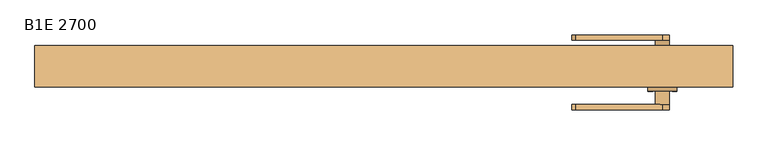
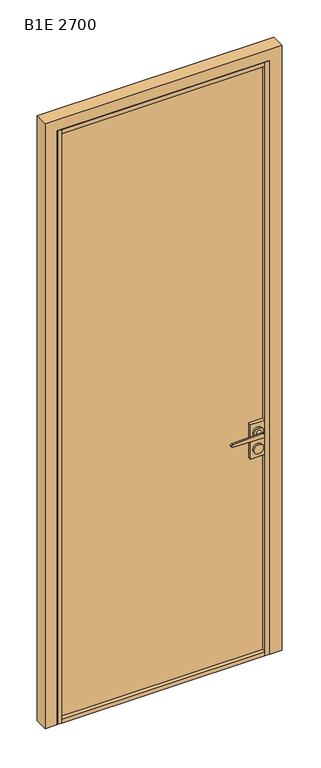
"""IFC4 building model written with IfcOpenShell, lengths in millimetres: door geometry, Mobiliário_Mobiliário de Escritório_Porta de Giro Emoldurada - BE_Marelli : B1E 2700."""

from ifc_helpers import new_model, si_unit, point, frame, frame_2d, origin, place, context, project, spatial, polyline, circle_curve, trimmed, segment, composite_curve, outline, extrude, faceted_brep, source, transform, mapped, element, save
from ifc_brep_helpers import plane_surface, cylinder_surface, advanced_brep


def b1e_2700_cc225067(model_context):
    return source(origin(), model_context, "Body", "SolidModel", [
        extrude(outline(polyline([(-447.5, -16.5), (-447.5, 25.5), (-429.5, 25.5), (-429.5, -16.5), (-447.5, -16.5)])), frame((0.0, 0.0, 0.2), z_axis=(0.0, 0.0, 1.0), x_axis=(1.0, 0.0, 0.0)), (0.0, 0.0, 1.0), 2648.3),
        extrude(outline(polyline([(447.5, -16.5), (429.5, -16.5), (429.5, 25.5), (447.5, 25.5), (447.5, -16.5)])), frame((0.0, 0.0, 0.2), z_axis=(0.0, 0.0, 1.0), x_axis=(1.0, 0.0, 0.0)), (0.0, 0.0, 1.0), 2648.3),
        extrude(outline(polyline([(2630.5, -429.5), (18.2, -429.5), (18.2, 429.5), (896.8, 429.5), (896.8, 369.5), (1050.0, 369.5), (1050.0, 429.5), (2630.5, 429.5), (2630.5, -429.5)])), frame((0.0, 0.5, 0.0), z_axis=(0.0, 1.0, 0.0), x_axis=(0.0, 0.0, 1.0)), (0.0, 0.0, 1.0), 8.0),
        faceted_brep([(-500.0, 42.5, 0.0), (-429.0, 42.5, 0.0), (-429.0, 27.0, 0.0), (-450.0, 27.0, 0.0), (-450.0, -16.5, 0.0), (-500.0, -16.5, 0.0), (500.0, 42.5, 0.0), (500.0, -16.5, 0.0), (450.0, -16.5, 0.0), (450.0, 27.0, 0.0), (429.0, 27.0, 0.0), (429.0, 42.5, 0.0), (-500.0, -16.5, 2700.0), (-500.0, 42.5, 2700.0), (-450.0, -16.5, 2650.0), (450.0, -16.5, 2650.0), (500.0, -16.5, 2700.0), (-450.0, 27.0, 2650.0), (-429.0, 27.0, 2629.0), (429.0, 27.0, 2629.0), (450.0, 27.0, 2650.0), (-429.0, 42.5, 2629.0), (500.0, 42.5, 2700.0), (429.0, 42.5, 2629.0)], [[[0, 1, 2, 3, 4, 5]], [[6, 7, 8, 9, 10, 11]], [[0, 5, 12, 13]], [[12, 5, 4, 14, 15, 8, 7, 16]], [[17, 14, 4, 3]], [[2, 18, 19, 10, 9, 20, 17, 3]], [[1, 21, 18, 2]], [[22, 6, 11, 23, 21, 1, 0, 13]], [[10, 19, 23, 11]], [[8, 15, 20, 9]], [[16, 7, 6, 22]], [[22, 13, 12, 16]], [[18, 21, 23, 19]], [[14, 17, 20, 15]]]),
        extrude(outline(polyline([(429.5, -16.5), (-429.5, -16.5), (-429.5, 25.5), (429.5, 25.5), (429.5, -16.5)])), frame((0.0, 0.0, 2630.5), z_axis=(0.0, 0.0, 1.0), x_axis=(1.0, 0.0, 0.0)), (0.0, 0.0, 1.0), 18.0),
        extrude(outline(polyline([(369.5, 23.55), (429.5, 23.55), (429.5, -14.55), (369.5, -14.55), (369.5, 23.55)])), frame((0.0, 0.0, 896.8), z_axis=(0.0, 0.0, 1.0), x_axis=(1.0, 0.0, 0.0)), (0.0, 0.0, 1.0), 153.2),
        extrude(outline(polyline([(429.5, -16.5), (-429.5, -16.5), (-429.5, 25.5), (429.5, 25.5), (429.5, -16.5)])), frame((0.0, 0.0, 0.2), z_axis=(0.0, 0.0, 1.0), x_axis=(1.0, 0.0, 0.0)), (0.0, 0.0, 1.0), 18.0),
        extrude(outline(composite_curve([segment(trimmed(circle_curve(frame_2d((936.55, 399.5)), 20.75), [point((936.55, 378.75))], [point((936.55, 420.25))], False, "CARTESIAN"), True, "CONTINUOUS"), segment(trimmed(circle_curve(frame_2d((936.55, 399.5)), 20.75), [point((936.55, 420.25))], [point((936.55, 378.75))], False, "CARTESIAN"), True, "CONTINUOUS")], self_intersect=False)), frame((0.0, -22.55, 0.0), z_axis=(0.0, 1.0, 0.0), x_axis=(0.0, 0.0, 1.0)), (0.0, 0.0, 1.0), 8.0),
        extrude(outline(composite_curve([segment(trimmed(circle_curve(frame_2d((936.55, 399.5)), 20.75), [point((936.55, 378.75))], [point((936.55, 420.25))], False, "CARTESIAN"), True, "CONTINUOUS"), segment(trimmed(circle_curve(frame_2d((936.55, 399.5)), 20.75), [point((936.55, 420.25))], [point((936.55, 378.75))], False, "CARTESIAN"), True, "CONTINUOUS")], self_intersect=False)), frame((0.0, 23.55, 0.0), z_axis=(0.0, 1.0, 0.0), x_axis=(0.0, 0.0, 1.0)), (0.0, 0.0, 1.0), 8.0),
        extrude(outline(composite_curve([segment(trimmed(circle_curve(frame_2d((1010.25, 399.5)), 20.75), [point((1010.25, 378.75))], [point((1010.25, 420.25))], False, "CARTESIAN"), True, "CONTINUOUS"), segment(trimmed(circle_curve(frame_2d((1010.25, 399.5)), 20.75), [point((1010.25, 420.25))], [point((1010.25, 378.75))], False, "CARTESIAN"), True, "CONTINUOUS")], self_intersect=False)), frame((0.0, 23.55, 0.0), z_axis=(0.0, 1.0, 0.0), x_axis=(0.0, 0.0, 1.0)), (0.0, 0.0, 1.0), 8.0),
        extrude(outline(composite_curve([segment(trimmed(circle_curve(frame_2d((1010.25, 399.5)), 20.75), [point((1010.25, 378.75))], [point((1010.25, 420.25))], False, "CARTESIAN"), True, "CONTINUOUS"), segment(trimmed(circle_curve(frame_2d((1010.25, 399.5)), 20.75), [point((1010.25, 420.25))], [point((1010.25, 378.75))], False, "CARTESIAN"), True, "CONTINUOUS")], self_intersect=False)), frame((0.0, -22.55, 0.0), z_axis=(0.0, 1.0, 0.0), x_axis=(0.0, 0.0, 1.0)), (0.0, 0.0, 1.0), 8.0),
        advanced_brep(
        [(389.5, -22.55, 1010.25), (409.5, -22.55, 1010.25), (389.5, -41.55, 1010.25), (399.0996794, -41.55, 1020.241984), (409.5, -41.55, 1010.25), (399.0996794, -41.55, 1000.258016), (274.5, -41.55, 1005.25), (274.5, -41.55, 1015.25), (399.0996794, -49.2, 1000.258016), (399.0996794, -49.2, 1020.241984), (274.5, -49.2, 1015.25), (274.5, -49.2, 1005.25)],
        [
            (0, 1, circle_curve(frame((399.5, -22.55, 1010.25), z_axis=(0.0, 1.0, 0.0), x_axis=(1.0, 0.0, 0.0)), 10.0)),
            (1, 0, circle_curve(frame((399.5, -22.55, 1010.25), z_axis=(0.0, 1.0, 0.0), x_axis=(1.0, 0.0, 0.0)), 10.0)),
            (0, 2),
            (2, 3, circle_curve(frame((399.5, -41.55, 1010.25), z_axis=(0.0, 1.0, 0.0), x_axis=(1.0, 0.0, 0.0)), 10.0)),
            (3, 4, circle_curve(frame((399.5, -41.55, 1010.25), z_axis=(0.0, 1.0, 0.0), x_axis=(1.0, 0.0, 0.0)), 10.0)),
            (4, 1),
            (4, 5, circle_curve(frame((399.5, -41.55, 1010.25), z_axis=(0.0, 1.0, 0.0), x_axis=(1.0, 0.0, 0.0)), 10.0)),
            (5, 2, circle_curve(frame((399.5, -41.55, 1010.25), z_axis=(0.0, 1.0, 0.0), x_axis=(1.0, 0.0, 0.0)), 10.0)),
            (5, 6),
            (6, 7, circle_curve(frame((274.5, -41.55, 1010.25), z_axis=(0.0, 1.0, 0.0), x_axis=(1.0, 0.0, 0.0)), 5.0)),
            (7, 3),
            (8, 9, circle_curve(frame((399.5, -49.2, 1010.25), z_axis=(0.0, -1.0, 0.0), x_axis=(1.0, 0.0, 0.0)), 10.0)),
            (9, 10),
            (10, 11, circle_curve(frame((274.5, -49.2, 1010.25), z_axis=(0.0, -1.0, 0.0), x_axis=(1.0, 0.0, 0.0)), 5.0)),
            (11, 8),
            (5, 8),
            (11, 6),
            (10, 7),
            (9, 3),
        ],
        [
            plane_surface(frame((409.5, -22.55, 1010.25), z_axis=(0.0, 1.0, 0.0), x_axis=(0.0, 0.0, 1.0))),
            cylinder_surface(frame((399.5, -22.55, 1010.25), z_axis=(0.0, -1.0, 0.0), x_axis=(1.0, 0.0, 0.0)), 10.0),
            plane_surface(frame((399.0996794, -41.55, 1000.258016), z_axis=(0.0, 1.0, 0.0), x_axis=(0.9991983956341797, 0.0, -0.0400320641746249))),
            plane_surface(frame((399.0996794, -49.2, 1000.258016), z_axis=(0.0, -1.0, 0.0), x_axis=(-0.9991983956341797, 0.0, 0.0400320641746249))),
            plane_surface(frame((399.0996794, -49.2, 1000.258016), z_axis=(-0.0400320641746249, 0.0, -0.9991983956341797), x_axis=(0.0, 1.0, 0.0))),
            cylinder_surface(frame((274.5, -41.55, 1010.25), z_axis=(0.0, -1.0, 0.0), x_axis=(1.0, 0.0, 0.0)), 5.0),
            plane_surface(frame((274.5, -49.2, 1015.25), z_axis=(-0.04003206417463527, 0.0, 0.9991983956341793), x_axis=(0.0, 1.0, 0.0))),
            cylinder_surface(frame((399.5, -41.55, 1010.25), z_axis=(0.0, -1.0, 0.0), x_axis=(1.0, 0.0, 0.0)), 10.0),
        ],
        [
            (0, [[1, 2]]),
            (1, [[3, 4, 5, 6, -1]]),
            (1, [[-6, 7, 8, -3, -2]]),
            (2, [[-4, -8, 9, 10, 11]]),
            (3, [[12, 13, 14, 15]]),
            (4, [[16, -15, 17, -9]]),
            (5, [[-17, -14, 18, -10]]),
            (6, [[-18, -13, 19, -11]]),
            (7, [[-16, -7, -5, -19, -12]]),
        ],
    ),
        advanced_brep(
        [(399.0996794, 50.55, 1000.258016), (389.5, 50.55, 1010.25), (399.0996794, 50.55, 1020.241984), (274.5, 50.55, 1015.25), (274.5, 50.55, 1005.25), (399.0996794, 58.2, 1000.258016), (274.5, 58.2, 1005.25), (274.5, 58.2, 1015.25), (399.0996794, 58.2, 1020.241984), (409.5, 50.55, 1010.25), (389.5, 31.55, 1010.25), (409.5, 31.55, 1010.25)],
        [
            (0, 1, circle_curve(frame((399.5, 50.55, 1010.25), z_axis=(0.0, 1.0, 0.0), x_axis=(1.0, 0.0, 0.0)), 10.0)),
            (1, 2, circle_curve(frame((399.5, 50.55, 1010.25), z_axis=(0.0, 1.0, 0.0), x_axis=(1.0, 0.0, 0.0)), 10.0)),
            (2, 3),
            (3, 4, circle_curve(frame((274.5, 50.55, 1010.25), z_axis=(0.0, -1.0, 0.0), x_axis=(1.0, 0.0, 0.0)), 5.0)),
            (4, 0),
            (5, 6),
            (6, 7, circle_curve(frame((274.5, 58.2, 1010.25), z_axis=(0.0, 1.0, 0.0), x_axis=(1.0, 0.0, 0.0)), 5.0)),
            (7, 8),
            (8, 5, circle_curve(frame((399.5, 58.2, 1010.25), z_axis=(0.0, 1.0, 0.0), x_axis=(1.0, 0.0, 0.0)), 10.0)),
            (4, 6),
            (5, 0),
            (3, 7),
            (2, 8),
            (2, 9, circle_curve(frame((399.5, 50.55, 1010.25), z_axis=(0.0, 1.0, 0.0), x_axis=(1.0, 0.0, 0.0)), 10.0)),
            (9, 0, circle_curve(frame((399.5, 50.55, 1010.25), z_axis=(0.0, 1.0, 0.0), x_axis=(1.0, 0.0, 0.0)), 10.0)),
            (10, 11, circle_curve(frame((399.5, 31.55, 1010.25), z_axis=(0.0, -1.0, 0.0), x_axis=(1.0, 0.0, 0.0)), 10.0)),
            (11, 10, circle_curve(frame((399.5, 31.55, 1010.25), z_axis=(0.0, -1.0, 0.0), x_axis=(1.0, 0.0, 0.0)), 10.0)),
            (11, 9),
            (1, 10),
        ],
        [
            plane_surface(frame((409.5, 50.55, 1010.25), z_axis=(0.0, -1.0, 0.0), x_axis=(0.0, 0.0, -1.0))),
            plane_surface(frame((409.5, 58.2, 1010.25), z_axis=(0.0, 1.0, 0.0), x_axis=(0.0, 0.0, 1.0))),
            plane_surface(frame((274.5, 58.2, 1005.25), z_axis=(-0.04003206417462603, 0.0, -0.9991983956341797), x_axis=(0.0, -1.0, 0.0))),
            cylinder_surface(frame((274.5, 50.55, 1010.25), z_axis=(0.0, 1.0, 0.0), x_axis=(1.0, 0.0, 0.0)), 5.0),
            plane_surface(frame((399.0996794, 58.2, 1020.241984), z_axis=(-0.04003206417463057, 0.0, 0.9991983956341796), x_axis=(0.0, -1.0, 0.0))),
            cylinder_surface(frame((399.5, 50.55, 1010.25), z_axis=(0.0, 1.0, 0.0), x_axis=(1.0, 0.0, 0.0)), 10.0),
            plane_surface(frame((409.5, 31.55, 1010.25), z_axis=(0.0, -1.0, 0.0), x_axis=(0.0, 0.0, -1.0))),
            cylinder_surface(frame((399.5, 31.55, 1010.25), z_axis=(0.0, 1.0, 0.0), x_axis=(1.0, 0.0, 0.0)), 10.0),
        ],
        [
            (0, [[1, 2, 3, 4, 5]]),
            (1, [[6, 7, 8, 9]]),
            (2, [[10, -6, 11, -5]]),
            (3, [[12, -7, -10, -4]]),
            (4, [[13, -8, -12, -3]]),
            (5, [[-13, 14, 15, -11, -9]]),
            (6, [[16, 17]]),
            (7, [[18, -14, -2, 19, -17]]),
            (7, [[-19, -1, -15, -18, -16]]),
        ],
    ),
    ])


if __name__ == "__main__":
    model = new_model("IFC4")
    model_context = context("Model", 3, world=origin())
    ifc_project = project(units=[si_unit("LENGTHUNIT", "METRE", prefix="MILLI")], contexts=[model_context])
    site = spatial("IfcSite", under=ifc_project)
    building = spatial("IfcBuilding", under=site)
    placement = place(None, origin())
    b1e_2700_shape = b1e_2700_cc225067(model_context)
    element("IfcDoor", 1, ObjectType="Mobiliário_Mobiliário de Escritório_Porta de Giro Emoldurada - BE_Marelli : B1E 2700", at=placement, inside=building, context=model_context, shape_type="MappedRepresentation", body=[
        mapped(b1e_2700_shape, transform((0.0, 0.0, 0.0), x_axis=(1.0, 0.0, 0.0), y_axis=(0.0, 1.0, 0.0), z_axis=(0.0, 0.0, 1.0))),
    ])
    save(model, "model.ifc")
